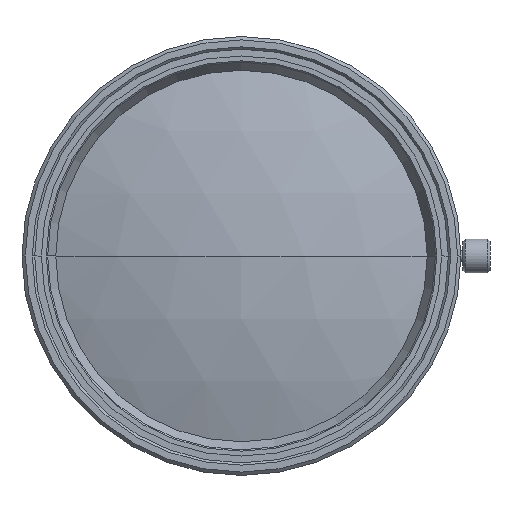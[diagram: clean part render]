
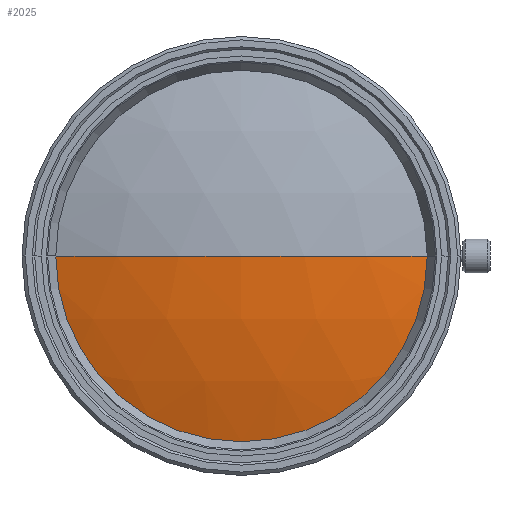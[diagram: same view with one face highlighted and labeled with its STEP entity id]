
A CAD part, left-side view. The second image highlights one B-rep face of the part: STEP entity #2025.
In plain terms, the highlighted spherical face has radius 88.5 mm.
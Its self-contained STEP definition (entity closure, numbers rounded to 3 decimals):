
#496 = CIRCLE ( 'NONE', #2605, 27.5 ) ;
#537 = CARTESIAN_POINT ( 'NONE',  ( 98.759, 274.233, 0. ) ) ;
#598 = FACE_OUTER_BOUND ( 'NONE', #2715, .T. ) ;
#789 = DIRECTION ( 'NONE',  ( 0., 0., 1. ) ) ;
#889 = CARTESIAN_POINT ( 'NONE',  ( 14.64, 274.233, 0. ) ) ;
#896 = VERTEX_POINT ( 'NONE', #2308 ) ;
#923 = VERTEX_POINT ( 'NONE', #1658 ) ;
#949 = AXIS2_PLACEMENT_3D ( 'NONE', #537, #2035, #3576 ) ;
#1026 = AXIS2_PLACEMENT_3D ( 'NONE', #3220, #789, #1099 ) ;
#1099 = DIRECTION ( 'NONE',  ( 1., 0., 0. ) ) ;
#1130 = CIRCLE ( 'NONE', #1026, 88.5 ) ;
#1437 = EDGE_CURVE ( 'NONE', #2443, #923, #1130, .T. ) ;
#1515 = DIRECTION ( 'NONE',  ( 0., -1., 0. ) ) ;
#1643 = AXIS2_PLACEMENT_3D ( 'NONE', #2886, #1746, #3206 ) ;
#1658 = CARTESIAN_POINT ( 'NONE',  ( 10.259, 274.233, 0. ) ) ;
#1746 = DIRECTION ( 'NONE',  ( 0., 0., -1. ) ) ;
#2025 = ADVANCED_FACE ( 'NONE', ( #598 ), #2677, .T. ) ;
#2035 = DIRECTION ( 'NONE',  ( 0., 0., -1. ) ) ;
#2273 = ORIENTED_EDGE ( 'NONE', *, *, #2734, .T. ) ;
#2308 = CARTESIAN_POINT ( 'NONE',  ( 14.64, 246.733, 0. ) ) ;
#2391 = ORIENTED_EDGE ( 'NONE', *, *, #1437, .F. ) ;
#2443 = VERTEX_POINT ( 'NONE', #3085 ) ;
#2605 = AXIS2_PLACEMENT_3D ( 'NONE', #889, #3308, #1515 ) ;
#2677 = SPHERICAL_SURFACE ( 'NONE', #949, 88.5 ) ;
#2715 = EDGE_LOOP ( 'NONE', ( #2273, #3150, #2391 ) ) ;
#2734 = EDGE_CURVE ( 'NONE', #2443, #896, #496, .T. ) ;
#2886 = CARTESIAN_POINT ( 'NONE',  ( 98.759, 274.233, 0. ) ) ;
#2970 = CIRCLE ( 'NONE', #1643, 88.5 ) ;
#3085 = CARTESIAN_POINT ( 'NONE',  ( 14.64, 301.733, 0. ) ) ;
#3150 = ORIENTED_EDGE ( 'NONE', *, *, #3671, .T. ) ;
#3206 = DIRECTION ( 'NONE',  ( 0., 1., 0. ) ) ;
#3220 = CARTESIAN_POINT ( 'NONE',  ( 98.759, 274.233, 0. ) ) ;
#3308 = DIRECTION ( 'NONE',  ( -1., 0., 0. ) ) ;
#3576 = DIRECTION ( 'NONE',  ( 0., 1., 0. ) ) ;
#3671 = EDGE_CURVE ( 'NONE', #896, #923, #2970, .T. ) ;
